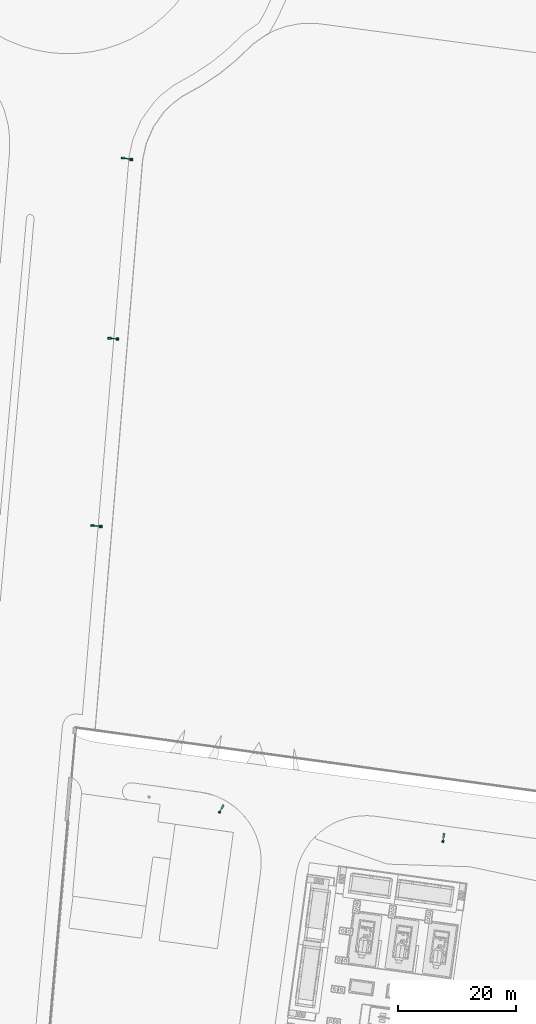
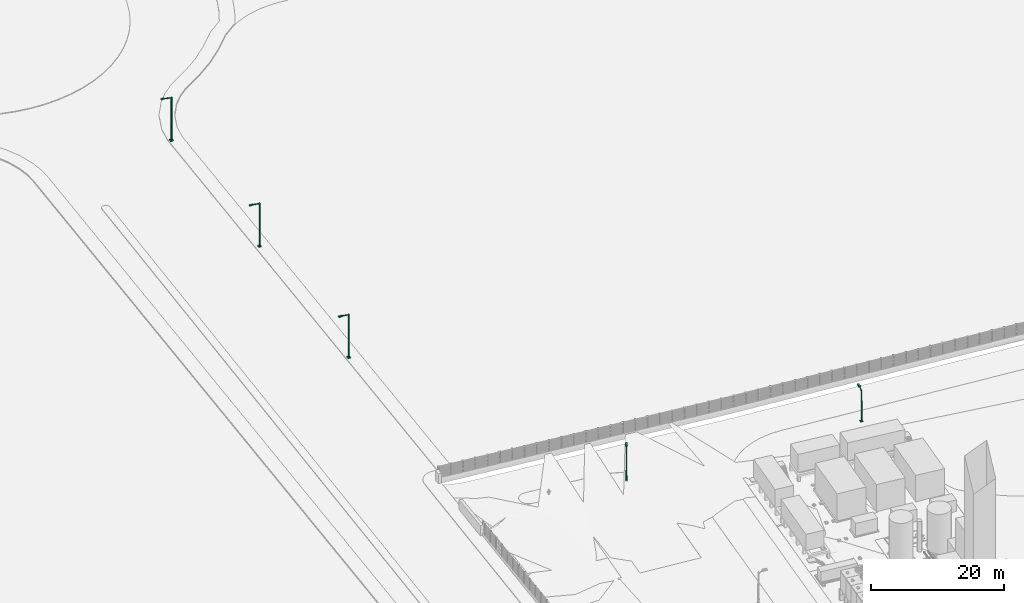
# Not in any storey, part 61 of 75: 5 light fixtures.
"""IFC4 model written with IfcOpenShell, lengths in metres."""

from ifc_helpers import new_model, si_unit, direction, origin, origin_with_axes, place, context, subcontext, project, spatial, triangles, element, save


model = new_model("IFC4")

# Units and contexts
model_context = context("Model", 3, precision=1e-05, world=origin_with_axes(), true_north=direction((0.0, 1.0)))
body_context = subcontext(model_context, "Body", "Model", "MODEL_VIEW")
ifc_project = project(units=[si_unit("AREAUNIT", "SQUARE_METRE"), si_unit("VOLUMEUNIT", "CUBIC_METRE"), si_unit("LENGTHUNIT", "METRE")], contexts=[model_context])

# Site
site_placement = place(None, origin_with_axes())
site = spatial("IfcSite", under=ifc_project, at=site_placement, Name="Parcela industrial Jinhong")

# Light fixtures
light_fixture_1_placement = place(None, origin())
element("IfcLightFixture", 1, at=light_fixture_1_placement, inside=site, Name="Luminaria LED L01 · provisional", ObjectType="Luminaria exterior provisional", PredefinedType="USERDEFINED", context=body_context, shape_type="Tessellation", body=[
    triangles([(25.080206, 94.714051, 0.783449), (25.080206, 94.714051, 0.843449), (24.714051, 94.919794, 0.783449), (24.714051, 94.919794, 0.843449), (25.285949, 95.080206, 0.783449), (25.285949, 95.080206, 0.843449), (24.919794, 95.285949, 0.783449), (24.919794, 95.285949, 0.843449)], [[2, 4, 1], [5, 2, 1], [1, 4, 3], [3, 5, 1], [2, 8, 4], [6, 2, 5], [6, 8, 2], [4, 8, 3], [7, 5, 3], [3, 8, 7], [7, 6, 5], [8, 6, 7]], closed=True),
    triangles([(25.0, 95.0, 0.843449), (25.068581, 95.122052, 0.843449), (25.068581, 95.122052, 0.903449), (25.0, 95.0, 0.903449), (25.016654, 95.139006, 0.843449), (25.016654, 95.139006, 0.903449), (24.962191, 95.134798, 0.843449), (24.962191, 95.134798, 0.903449), (24.913484, 95.110068, 0.843449), (24.913484, 95.110068, 0.903449), (24.877948, 95.068581, 0.843449), (24.877948, 95.068581, 0.903449), (24.860994, 95.016654, 0.843449), (24.860994, 95.016654, 0.903449), (24.865202, 94.962191, 0.843449), (24.865202, 94.962191, 0.903449), (24.889932, 94.913484, 0.843449), (24.889932, 94.913484, 0.903449), (24.931419, 94.877948, 0.843449), (24.931419, 94.877948, 0.903449), (24.983346, 94.860994, 0.843449), (24.983346, 94.860994, 0.903449), (25.037809, 94.865202, 0.843449), (25.037809, 94.865202, 0.903449), (25.086516, 94.889932, 0.843449), (25.086516, 94.889932, 0.903449), (25.122052, 94.931419, 0.843449), (25.122052, 94.931419, 0.903449), (25.139006, 94.983346, 0.843449), (25.139006, 94.983346, 0.903449), (25.134798, 95.037809, 0.843449), (25.134798, 95.037809, 0.903449), (25.110068, 95.086516, 0.843449), (25.110068, 95.086516, 0.903449)], [[2, 1, 5], [2, 5, 3], [3, 5, 6], [3, 6, 4], [5, 1, 7], [5, 7, 6], [6, 7, 8], [6, 8, 4], [7, 1, 9], [7, 9, 8], [8, 9, 10], [8, 10, 4], [9, 1, 11], [9, 11, 10], [10, 11, 12], [10, 12, 4], [11, 1, 13], [11, 13, 12], [12, 13, 14], [12, 14, 4], [13, 1, 15], [13, 15, 14], [14, 15, 16], [14, 16, 4], [15, 1, 17], [15, 17, 16], [16, 17, 18], [16, 18, 4], [17, 1, 19], [17, 19, 18], [18, 19, 20], [18, 20, 4], [19, 1, 21], [19, 21, 20], [20, 21, 22], [20, 22, 4], [21, 1, 23], [21, 23, 22], [22, 23, 24], [22, 24, 4], [23, 1, 25], [23, 25, 24], [24, 25, 26], [24, 26, 4], [25, 1, 27], [25, 27, 26], [26, 27, 28], [26, 28, 4], [27, 1, 29], [27, 29, 28], [28, 29, 30], [28, 30, 4], [29, 1, 31], [29, 31, 30], [30, 31, 32], [30, 32, 4], [31, 1, 33], [31, 33, 32], [32, 33, 34], [32, 34, 4], [33, 1, 2], [33, 2, 34], [34, 2, 3], [34, 3, 4]], closed=True),
    triangles([(25.041639, 95.074103, 0.903449), (25.010111, 95.084396, 0.903449), (24.977044, 95.081842, 0.903449), (24.947472, 95.066827, 0.903449), (24.925897, 95.041639, 0.903449), (24.915604, 95.010111, 0.903449), (24.918158, 94.977044, 0.903449), (24.933173, 94.947472, 0.903449), (24.958361, 94.925897, 0.903449), (24.989889, 94.915604, 0.903449), (25.022956, 94.918158, 0.903449), (25.052528, 94.933173, 0.903449), (25.074103, 94.958361, 0.903449), (25.084396, 94.989889, 0.903449), (25.081842, 95.022956, 0.903449), (25.066827, 95.052528, 0.903449), (25.022044, 95.039231, 6.483449), (25.005353, 95.04468, 6.483449), (24.987847, 95.043328, 6.483449), (24.972191, 95.035379, 6.483449), (24.960769, 95.022044, 6.483449), (24.95532, 95.005353, 6.483449), (24.956672, 94.987847, 6.483449), (24.964621, 94.972191, 6.483449), (24.977956, 94.960769, 6.483449), (24.994647, 94.95532, 6.483449), (25.012153, 94.956672, 6.483449), (25.027809, 94.964621, 6.483449), (25.039231, 94.977956, 6.483449), (25.04468, 94.994647, 6.483449), (25.043328, 95.012153, 6.483449), (25.035379, 95.027809, 6.483449)], [[31, 14, 15], [30, 14, 31], [29, 14, 30], [13, 14, 29], [26, 10, 11], [26, 11, 27], [9, 10, 26], [26, 25, 9], [4, 10, 9], [1, 16, 4], [13, 12, 4], [4, 6, 5], [9, 8, 4], [4, 2, 1], [4, 16, 15], [3, 2, 4], [4, 12, 11], [11, 10, 4], [4, 14, 13], [15, 14, 4], [7, 6, 4], [4, 8, 7], [1, 2, 18], [18, 17, 1], [32, 16, 1], [1, 17, 32], [15, 16, 32], [32, 31, 15], [11, 12, 28], [27, 11, 28], [28, 12, 13], [13, 29, 28], [21, 4, 5], [20, 4, 21], [7, 8, 24], [23, 7, 24], [9, 25, 24], [24, 8, 9], [3, 4, 19], [19, 4, 20], [19, 2, 3], [19, 18, 2], [22, 32, 17], [22, 26, 27], [17, 18, 22], [22, 19, 20], [27, 28, 22], [30, 31, 22], [22, 29, 30], [25, 26, 22], [23, 24, 22], [31, 32, 22], [22, 28, 29], [20, 21, 22], [22, 24, 25], [18, 19, 22], [22, 6, 7], [22, 7, 23], [5, 6, 22], [22, 21, 5]], closed=True),
    triangles([(25.0, 95.0, 6.483449), (25.023024, 95.040974, 6.483449), (25.023024, 95.040974, 6.503449), (25.0, 95.0, 6.503449), (25.005591, 95.046666, 6.483449), (25.005591, 95.046666, 6.503449), (24.987307, 95.045254, 6.483449), (24.987307, 95.045254, 6.503449), (24.970955, 95.036951, 6.483449), (24.970955, 95.036951, 6.503449), (24.959026, 95.023024, 6.483449), (24.959026, 95.023024, 6.503449), (24.953334, 95.005591, 6.483449), (24.953334, 95.005591, 6.503449), (24.954746, 94.987307, 6.483449), (24.954746, 94.987307, 6.503449), (24.963049, 94.970955, 6.483449), (24.963049, 94.970955, 6.503449), (24.976976, 94.959026, 6.483449), (24.976976, 94.959026, 6.503449), (24.994409, 94.953334, 6.483449), (24.994409, 94.953334, 6.503449), (25.012693, 94.954746, 6.483449), (25.012693, 94.954746, 6.503449), (25.029045, 94.963049, 6.483449), (25.029045, 94.963049, 6.503449), (25.040974, 94.976976, 6.483449), (25.040974, 94.976976, 6.503449), (25.046666, 94.994409, 6.483449), (25.046666, 94.994409, 6.503449), (25.045254, 95.012693, 6.483449), (25.045254, 95.012693, 6.503449), (25.036951, 95.029045, 6.483449), (25.036951, 95.029045, 6.503449)], [[2, 1, 5], [2, 5, 3], [3, 5, 6], [3, 6, 4], [5, 1, 7], [5, 7, 6], [6, 7, 8], [6, 8, 4], [7, 1, 9], [7, 9, 8], [8, 9, 10], [8, 10, 4], [9, 1, 11], [9, 11, 10], [10, 11, 12], [10, 12, 4], [11, 1, 13], [11, 13, 12], [12, 13, 14], [12, 14, 4], [13, 1, 15], [13, 15, 14], [14, 15, 16], [14, 16, 4], [15, 1, 17], [15, 17, 16], [16, 17, 18], [16, 18, 4], [17, 1, 19], [17, 19, 18], [18, 19, 20], [18, 20, 4], [19, 1, 21], [19, 21, 20], [20, 21, 22], [20, 22, 4], [21, 1, 23], [21, 23, 22], [22, 23, 24], [22, 24, 4], [23, 1, 25], [23, 25, 24], [24, 25, 26], [24, 26, 4], [25, 1, 27], [25, 27, 26], [26, 27, 28], [26, 28, 4], [27, 1, 29], [27, 29, 28], [28, 29, 30], [28, 30, 4], [29, 1, 31], [29, 31, 30], [30, 31, 32], [30, 32, 4], [31, 1, 33], [31, 33, 32], [32, 33, 34], [32, 34, 4], [33, 1, 2], [33, 2, 34], [34, 2, 3], [34, 3, 4]], closed=True),
    triangles([(25.049651, 94.822984, 0.843449), (25.058469, 94.838676, 0.843449), (25.058469, 94.838676, 0.868449), (25.049651, 94.822984, 0.868449), (25.04047, 94.838466, 0.843449), (25.04047, 94.838466, 0.868449), (25.031652, 94.822774, 0.843449), (25.031652, 94.822774, 0.868449), (25.040833, 94.807291, 0.843449), (25.040833, 94.807291, 0.868449), (25.058832, 94.807501, 0.843449), (25.058832, 94.807501, 0.868449), (25.06765, 94.823194, 0.843449), (25.06765, 94.823194, 0.868449)], [[2, 1, 5], [2, 5, 3], [3, 5, 6], [3, 6, 4], [5, 1, 7], [5, 7, 6], [6, 7, 8], [6, 8, 4], [7, 1, 9], [7, 9, 8], [8, 9, 10], [8, 10, 4], [9, 1, 11], [9, 11, 10], [10, 11, 12], [10, 12, 4], [11, 1, 13], [11, 13, 12], [12, 13, 14], [12, 14, 4], [13, 1, 2], [13, 2, 14], [14, 2, 3], [14, 3, 4]], closed=True),
    triangles([(24.822984, 94.950349, 0.843449), (24.831801, 94.966041, 0.843449), (24.831801, 94.966041, 0.868449), (24.822984, 94.950349, 0.868449), (24.813803, 94.965831, 0.843449), (24.813803, 94.965831, 0.868449), (24.804985, 94.950139, 0.843449), (24.804985, 94.950139, 0.868449), (24.814166, 94.934657, 0.843449), (24.814166, 94.934657, 0.868449), (24.832165, 94.934867, 0.843449), (24.832165, 94.934867, 0.868449), (24.840982, 94.950559, 0.843449), (24.840982, 94.950559, 0.868449)], [[2, 1, 5], [2, 5, 3], [3, 5, 6], [3, 6, 4], [5, 1, 7], [5, 7, 6], [6, 7, 8], [6, 8, 4], [7, 1, 9], [7, 9, 8], [8, 9, 10], [8, 10, 4], [9, 1, 11], [9, 11, 10], [10, 11, 12], [10, 12, 4], [11, 1, 13], [11, 13, 12], [12, 13, 14], [12, 14, 4], [13, 1, 2], [13, 2, 14], [14, 2, 3], [14, 3, 4]], closed=True),
    triangles([(25.177016, 95.049651, 0.843449), (25.185834, 95.065343, 0.843449), (25.185834, 95.065343, 0.868449), (25.177016, 95.049651, 0.868449), (25.167835, 95.065133, 0.843449), (25.167835, 95.065133, 0.868449), (25.159018, 95.049441, 0.843449), (25.159018, 95.049441, 0.868449), (25.168199, 95.033959, 0.843449), (25.168199, 95.033959, 0.868449), (25.186197, 95.034169, 0.843449), (25.186197, 95.034169, 0.868449), (25.195015, 95.049861, 0.843449), (25.195015, 95.049861, 0.868449)], [[2, 1, 5], [2, 5, 3], [3, 5, 6], [3, 6, 4], [5, 1, 7], [5, 7, 6], [6, 7, 8], [6, 8, 4], [7, 1, 9], [7, 9, 8], [8, 9, 10], [8, 10, 4], [9, 1, 11], [9, 11, 10], [10, 11, 12], [10, 12, 4], [11, 1, 13], [11, 13, 12], [12, 13, 14], [12, 14, 4], [13, 1, 2], [13, 2, 14], [14, 2, 3], [14, 3, 4]], closed=True),
    triangles([(24.950349, 95.177016, 0.843449), (24.959167, 95.192709, 0.843449), (24.959167, 95.192709, 0.868449), (24.950349, 95.177016, 0.868449), (24.941168, 95.192499, 0.843449), (24.941168, 95.192499, 0.868449), (24.93235, 95.176806, 0.843449), (24.93235, 95.176806, 0.868449), (24.941531, 95.161324, 0.843449), (24.941531, 95.161324, 0.868449), (24.95953, 95.161534, 0.843449), (24.95953, 95.161534, 0.868449), (24.968348, 95.177226, 0.843449), (24.968348, 95.177226, 0.868449)], [[2, 1, 5], [2, 5, 3], [3, 5, 6], [3, 6, 4], [5, 1, 7], [5, 7, 6], [6, 7, 8], [6, 8, 4], [7, 1, 9], [7, 9, 8], [8, 9, 10], [8, 10, 4], [9, 1, 11], [9, 11, 10], [10, 11, 12], [10, 12, 4], [11, 1, 13], [11, 13, 12], [12, 13, 14], [12, 14, 4], [13, 1, 2], [13, 2, 14], [14, 2, 3], [14, 3, 4]], closed=True),
    triangles([(25.067253, 95.048239, 1.313449), (25.067253, 95.048239, 1.613449), (25.006227, 95.08253, 1.313449), (25.006227, 95.08253, 1.613449), (25.073131, 95.058701, 1.313449), (25.073131, 95.058701, 1.613449), (25.012105, 95.092992, 1.313449), (25.012105, 95.092992, 1.613449)], [[2, 4, 1], [5, 2, 1], [1, 4, 3], [3, 5, 1], [2, 8, 4], [6, 2, 5], [6, 8, 2], [4, 8, 3], [7, 5, 3], [3, 8, 7], [7, 6, 5], [8, 6, 7]], closed=True),
    triangles([(25.0, 95.0, 6.183449), (25.009467, 95.016849, 6.155476), (25.278894, 95.496338, 6.535476), (25.269427, 95.479489, 6.563449), (24.993379, 95.022919, 6.159224), (25.262805, 95.502408, 6.539224), (24.979064, 95.022849, 6.169462), (25.24849, 95.502337, 6.549462), (24.970359, 95.016655, 6.183449), (25.239785, 95.496144, 6.563449), (24.969596, 95.006, 6.197435), (25.239023, 95.485488, 6.577435), (24.97698, 94.993736, 6.207674), (25.246407, 95.473225, 6.587674), (24.990533, 94.983151, 6.211422), (25.259959, 95.46264, 6.591422), (25.006621, 94.977081, 6.207674), (25.276048, 95.456569, 6.587674), (25.020936, 94.977151, 6.197435), (25.290363, 95.45664, 6.577435), (25.029641, 94.983345, 6.183449), (25.299068, 95.462833, 6.563449), (25.030404, 94.994, 6.169462), (25.29983, 95.473489, 6.549462), (25.02302, 95.006264, 6.159224), (25.292446, 95.485753, 6.539224)], [[2, 1, 5], [2, 5, 3], [3, 5, 6], [3, 6, 4], [5, 1, 7], [5, 7, 6], [6, 7, 8], [6, 8, 4], [7, 1, 9], [7, 9, 8], [8, 9, 10], [8, 10, 4], [9, 1, 11], [9, 11, 10], [10, 11, 12], [10, 12, 4], [11, 1, 13], [11, 13, 12], [12, 13, 14], [12, 14, 4], [13, 1, 15], [13, 15, 14], [14, 15, 16], [14, 16, 4], [15, 1, 17], [15, 17, 16], [16, 17, 18], [16, 18, 4], [17, 1, 19], [17, 19, 18], [18, 19, 20], [18, 20, 4], [19, 1, 21], [19, 21, 20], [20, 21, 22], [20, 22, 4], [21, 1, 23], [21, 23, 22], [22, 23, 24], [22, 24, 4], [23, 1, 25], [23, 25, 24], [24, 25, 26], [24, 26, 4], [25, 1, 2], [25, 2, 26], [26, 2, 3], [26, 3, 4]], closed=True),
    triangles([(25.269427, 95.479489, 6.563449), (25.274828, 95.489102, 6.531287), (25.446282, 95.794231, 6.651287), (25.44088, 95.784618, 6.683449), (25.259284, 95.496142, 6.535596), (25.430737, 95.801271, 6.655596), (25.246457, 95.498719, 6.547368), (25.417911, 95.803848, 6.667368), (25.239785, 95.496144, 6.563449), (25.411239, 95.801273, 6.683449), (25.241056, 95.489106, 6.57953), (25.412509, 95.794235, 6.69953), (25.249928, 95.479491, 6.591302), (25.421381, 95.78462, 6.711302), (25.264025, 95.469875, 6.595611), (25.435478, 95.775004, 6.715611), (25.279569, 95.462836, 6.591302), (25.451022, 95.767965, 6.711302), (25.292396, 95.460258, 6.57953), (25.463849, 95.765387, 6.69953), (25.299068, 95.462833, 6.563449), (25.470521, 95.767962, 6.683449), (25.297797, 95.469871, 6.547368), (25.469251, 95.775, 6.667368), (25.288925, 95.479486, 6.535596), (25.460378, 95.784615, 6.655596)], [[2, 1, 5], [2, 5, 3], [3, 5, 6], [3, 6, 4], [5, 1, 7], [5, 7, 6], [6, 7, 8], [6, 8, 4], [7, 1, 9], [7, 9, 8], [8, 9, 10], [8, 10, 4], [9, 1, 11], [9, 11, 10], [10, 11, 12], [10, 12, 4], [11, 1, 13], [11, 13, 12], [12, 13, 14], [12, 14, 4], [13, 1, 15], [13, 15, 14], [14, 15, 16], [14, 16, 4], [15, 1, 17], [15, 17, 16], [16, 17, 18], [16, 18, 4], [17, 1, 19], [17, 19, 18], [18, 19, 20], [18, 20, 4], [19, 1, 21], [19, 21, 20], [20, 21, 22], [20, 22, 4], [21, 1, 23], [21, 23, 22], [22, 23, 24], [22, 24, 4], [23, 1, 25], [23, 25, 24], [24, 25, 26], [24, 26, 4], [25, 1, 2], [25, 2, 26], [26, 2, 3], [26, 3, 4]], closed=True),
    triangles([(25.463879, 95.519342, 6.603449), (25.463879, 95.519342, 6.783449), (25.20234, 95.666302, 6.603449), (25.20234, 95.666302, 6.783449), (25.816583, 96.147037, 6.603449), (25.816583, 96.147037, 6.783449), (25.555043, 96.293996, 6.603449), (25.555043, 96.293996, 6.783449)], [[2, 4, 1], [5, 2, 1], [1, 4, 3], [3, 5, 1], [2, 8, 4], [6, 2, 5], [6, 8, 2], [4, 8, 3], [7, 5, 3], [3, 8, 7], [7, 6, 5], [8, 6, 7]], closed=True),
    triangles([(25.458399, 95.591245, 6.578449), (25.458399, 95.591245, 6.603449), (25.266603, 95.699015, 6.578449), (25.266603, 95.699015, 6.603449), (25.752319, 96.114323, 6.578449), (25.752319, 96.114323, 6.603449), (25.560523, 96.222094, 6.578449), (25.560523, 96.222094, 6.603449)], [[2, 4, 1], [5, 2, 1], [1, 4, 3], [3, 5, 1], [2, 8, 4], [6, 2, 5], [6, 8, 2], [4, 8, 3], [7, 5, 3], [3, 8, 7], [7, 6, 5], [8, 6, 7]], closed=True),
])
light_fixture_2_placement = place(None, origin())
element("IfcLightFixture", 2, at=light_fixture_2_placement, inside=site, Name="Luminaria LED L02 · provisional", ObjectType="Luminaria exterior provisional", PredefinedType="USERDEFINED", context=body_context, shape_type="Tessellation", body=[
    triangles([(63.179174, 89.763152, 1.441939), (63.179174, 89.763152, 1.501939), (62.763152, 89.820826, 1.441939), (62.763152, 89.820826, 1.501939), (63.236848, 90.179174, 1.441939), (63.236848, 90.179174, 1.501939), (62.820826, 90.236848, 1.441939), (62.820826, 90.236848, 1.501939)], [[2, 4, 1], [5, 2, 1], [1, 4, 3], [3, 5, 1], [2, 8, 4], [6, 2, 5], [6, 8, 2], [4, 8, 3], [7, 5, 3], [3, 8, 7], [7, 6, 5], [8, 6, 7]], closed=True),
    triangles([(63.0, 90.0, 1.501939), (63.019225, 90.138674, 1.501939), (63.019225, 90.138674, 1.561939), (63.0, 90.0, 1.561939), (62.964693, 90.135475, 1.501939), (62.964693, 90.135475, 1.561939), (62.915537, 90.111651, 1.501939), (62.915537, 90.111651, 1.561939), (62.879239, 90.070829, 1.501939), (62.879239, 90.070829, 1.561939), (62.861326, 90.019225, 1.501939), (62.861326, 90.019225, 1.561939), (62.864525, 89.964693, 1.501939), (62.864525, 89.964693, 1.561939), (62.888349, 89.915537, 1.501939), (62.888349, 89.915537, 1.561939), (62.929171, 89.879239, 1.501939), (62.929171, 89.879239, 1.561939), (62.980775, 89.861326, 1.501939), (62.980775, 89.861326, 1.561939), (63.035307, 89.864525, 1.501939), (63.035307, 89.864525, 1.561939), (63.084463, 89.888349, 1.501939), (63.084463, 89.888349, 1.561939), (63.120761, 89.929171, 1.501939), (63.120761, 89.929171, 1.561939), (63.138674, 89.980775, 1.501939), (63.138674, 89.980775, 1.561939), (63.135475, 90.035307, 1.501939), (63.135475, 90.035307, 1.561939), (63.111651, 90.084463, 1.501939), (63.111651, 90.084463, 1.561939), (63.070829, 90.120761, 1.501939), (63.070829, 90.120761, 1.561939)], [[2, 1, 5], [2, 5, 3], [3, 5, 6], [3, 6, 4], [5, 1, 7], [5, 7, 6], [6, 7, 8], [6, 8, 4], [7, 1, 9], [7, 9, 8], [8, 9, 10], [8, 10, 4], [9, 1, 11], [9, 11, 10], [10, 11, 12], [10, 12, 4], [11, 1, 13], [11, 13, 12], [12, 13, 14], [12, 14, 4], [13, 1, 15], [13, 15, 14], [14, 15, 16], [14, 16, 4], [15, 1, 17], [15, 17, 16], [16, 17, 18], [16, 18, 4], [17, 1, 19], [17, 19, 18], [18, 19, 20], [18, 20, 4], [19, 1, 21], [19, 21, 20], [20, 21, 22], [20, 22, 4], [21, 1, 23], [21, 23, 22], [22, 23, 24], [22, 24, 4], [23, 1, 25], [23, 25, 24], [24, 25, 26], [24, 26, 4], [25, 1, 27], [25, 27, 26], [26, 27, 28], [26, 28, 4], [27, 1, 29], [27, 29, 28], [28, 29, 30], [28, 30, 4], [29, 1, 31], [29, 31, 30], [30, 31, 32], [30, 32, 4], [31, 1, 33], [31, 33, 32], [32, 33, 34], [32, 34, 4], [33, 1, 2], [33, 2, 34], [34, 2, 3], [34, 3, 4]], closed=True),
    triangles([(63.011672, 90.084195, 1.561939), (62.978564, 90.082253, 1.561939), (62.948719, 90.067788, 1.561939), (62.926681, 90.043004, 1.561939), (62.915805, 90.011672, 1.561939), (62.917747, 89.978564, 1.561939), (62.932212, 89.948719, 1.561939), (62.956996, 89.926681, 1.561939), (62.988328, 89.915805, 1.561939), (63.021436, 89.917747, 1.561939), (63.051281, 89.932212, 1.561939), (63.073319, 89.956996, 1.561939), (63.084195, 89.988328, 1.561939), (63.082253, 90.021436, 1.561939), (63.067788, 90.051281, 1.561939), (63.043004, 90.073319, 1.561939), (63.006179, 90.044574, 7.141939), (62.988651, 90.043545, 7.141939), (62.972851, 90.035888, 7.141939), (62.961184, 90.022767, 7.141939), (62.955426, 90.006179, 7.141939), (62.956455, 89.988651, 7.141939), (62.964112, 89.972851, 7.141939), (62.977233, 89.961184, 7.141939), (62.993821, 89.955426, 7.141939), (63.011349, 89.956455, 7.141939), (63.027149, 89.964112, 7.141939), (63.038816, 89.977233, 7.141939), (63.044574, 89.993821, 7.141939), (63.043545, 90.011349, 7.141939), (63.035888, 90.027149, 7.141939), (63.022767, 90.038816, 7.141939)], [[31, 14, 15], [30, 14, 31], [29, 14, 30], [13, 14, 29], [26, 10, 11], [26, 11, 27], [9, 10, 26], [26, 25, 9], [4, 10, 9], [1, 16, 4], [13, 12, 4], [4, 6, 5], [9, 8, 4], [4, 2, 1], [4, 16, 15], [3, 2, 4], [4, 12, 11], [11, 10, 4], [4, 14, 13], [15, 14, 4], [7, 6, 4], [4, 8, 7], [1, 2, 18], [18, 17, 1], [32, 16, 1], [1, 17, 32], [15, 16, 32], [32, 31, 15], [11, 12, 28], [27, 11, 28], [28, 12, 13], [13, 29, 28], [21, 4, 5], [20, 4, 21], [7, 8, 24], [23, 7, 24], [9, 25, 24], [24, 8, 9], [3, 4, 19], [19, 4, 20], [19, 2, 3], [19, 18, 2], [22, 32, 17], [22, 26, 27], [17, 18, 22], [22, 19, 20], [27, 28, 22], [30, 31, 22], [22, 29, 30], [25, 26, 22], [23, 24, 22], [31, 32, 22], [22, 28, 29], [20, 21, 22], [22, 24, 25], [18, 19, 22], [22, 6, 7], [22, 7, 23], [5, 6, 22], [22, 21, 5]], closed=True),
    triangles([(63.0, 90.0, 7.141939), (63.006454, 90.046555, 7.141939), (63.006454, 90.046555, 7.161939), (63.0, 90.0, 7.161939), (62.988147, 90.045481, 7.141939), (62.988147, 90.045481, 7.161939), (62.971644, 90.037483, 7.141939), (62.971644, 90.037483, 7.161939), (62.959459, 90.023778, 7.141939), (62.959459, 90.023778, 7.161939), (62.953445, 90.006454, 7.141939), (62.953445, 90.006454, 7.161939), (62.954519, 89.988147, 7.141939), (62.954519, 89.988147, 7.161939), (62.962517, 89.971644, 7.141939), (62.962517, 89.971644, 7.161939), (62.976222, 89.959459, 7.141939), (62.976222, 89.959459, 7.161939), (62.993546, 89.953445, 7.141939), (62.993546, 89.953445, 7.161939), (63.011853, 89.954519, 7.141939), (63.011853, 89.954519, 7.161939), (63.028356, 89.962517, 7.141939), (63.028356, 89.962517, 7.161939), (63.040541, 89.976222, 7.141939), (63.040541, 89.976222, 7.161939), (63.046555, 89.993546, 7.141939), (63.046555, 89.993546, 7.161939), (63.045481, 90.011853, 7.141939), (63.045481, 90.011853, 7.161939), (63.037483, 90.028356, 7.141939), (63.037483, 90.028356, 7.161939), (63.023778, 90.040541, 7.141939), (63.023778, 90.040541, 7.161939)], [[2, 1, 5], [2, 5, 3], [3, 5, 6], [3, 6, 4], [5, 1, 7], [5, 7, 6], [6, 7, 8], [6, 8, 4], [7, 1, 9], [7, 9, 8], [8, 9, 10], [8, 10, 4], [9, 1, 11], [9, 11, 10], [10, 11, 12], [10, 12, 4], [11, 1, 13], [11, 13, 12], [12, 13, 14], [12, 14, 4], [13, 1, 15], [13, 15, 14], [14, 15, 16], [14, 16, 4], [15, 1, 17], [15, 17, 16], [16, 17, 18], [16, 18, 4], [17, 1, 19], [17, 19, 18], [18, 19, 20], [18, 20, 4], [19, 1, 21], [19, 21, 20], [20, 21, 22], [20, 22, 4], [21, 1, 23], [21, 23, 22], [22, 23, 24], [22, 24, 4], [23, 1, 25], [23, 25, 24], [24, 25, 26], [24, 26, 4], [25, 1, 27], [25, 27, 26], [26, 27, 28], [26, 28, 4], [27, 1, 29], [27, 29, 28], [28, 29, 30], [28, 30, 4], [29, 1, 31], [29, 31, 30], [30, 31, 32], [30, 32, 4], [31, 1, 33], [31, 33, 32], [32, 33, 34], [32, 34, 4], [33, 1, 2], [33, 2, 34], [34, 2, 3], [34, 3, 4]], closed=True),
    triangles([(63.110917, 89.85338, 1.501939), (63.113389, 89.871209, 1.501939), (63.113389, 89.871209, 1.526939), (63.110917, 89.85338, 1.526939), (63.096712, 89.864435, 1.501939), (63.096712, 89.864435, 1.526939), (63.09424, 89.846606, 1.501939), (63.09424, 89.846606, 1.526939), (63.108445, 89.835551, 1.501939), (63.108445, 89.835551, 1.526939), (63.125122, 89.842325, 1.501939), (63.125122, 89.842325, 1.526939), (63.127594, 89.860154, 1.501939), (63.127594, 89.860154, 1.526939)], [[2, 1, 5], [2, 5, 3], [3, 5, 6], [3, 6, 4], [5, 1, 7], [5, 7, 6], [6, 7, 8], [6, 8, 4], [7, 1, 9], [7, 9, 8], [8, 9, 10], [8, 10, 4], [9, 1, 11], [9, 11, 10], [10, 11, 12], [10, 12, 4], [11, 1, 13], [11, 13, 12], [12, 13, 14], [12, 14, 4], [13, 1, 2], [13, 2, 14], [14, 2, 3], [14, 3, 4]], closed=True),
    triangles([(62.85338, 89.889083, 1.501939), (62.855852, 89.906913, 1.501939), (62.855852, 89.906913, 1.526939), (62.85338, 89.889083, 1.526939), (62.839175, 89.900138, 1.501939), (62.839175, 89.900138, 1.526939), (62.836703, 89.882309, 1.501939), (62.836703, 89.882309, 1.526939), (62.850908, 89.871254, 1.501939), (62.850908, 89.871254, 1.526939), (62.867585, 89.878028, 1.501939), (62.867585, 89.878028, 1.526939), (62.870057, 89.895857, 1.501939), (62.870057, 89.895857, 1.526939)], [[2, 1, 5], [2, 5, 3], [3, 5, 6], [3, 6, 4], [5, 1, 7], [5, 7, 6], [6, 7, 8], [6, 8, 4], [7, 1, 9], [7, 9, 8], [8, 9, 10], [8, 10, 4], [9, 1, 11], [9, 11, 10], [10, 11, 12], [10, 12, 4], [11, 1, 13], [11, 13, 12], [12, 13, 14], [12, 14, 4], [13, 1, 2], [13, 2, 14], [14, 2, 3], [14, 3, 4]], closed=True),
    triangles([(63.14662, 90.110917, 1.501939), (63.149092, 90.128746, 1.501939), (63.149092, 90.128746, 1.526939), (63.14662, 90.110917, 1.526939), (63.132415, 90.121972, 1.501939), (63.132415, 90.121972, 1.526939), (63.129943, 90.104143, 1.501939), (63.129943, 90.104143, 1.526939), (63.144148, 90.093087, 1.501939), (63.144148, 90.093087, 1.526939), (63.160825, 90.099862, 1.501939), (63.160825, 90.099862, 1.526939), (63.163297, 90.117691, 1.501939), (63.163297, 90.117691, 1.526939)], [[2, 1, 5], [2, 5, 3], [3, 5, 6], [3, 6, 4], [5, 1, 7], [5, 7, 6], [6, 7, 8], [6, 8, 4], [7, 1, 9], [7, 9, 8], [8, 9, 10], [8, 10, 4], [9, 1, 11], [9, 11, 10], [10, 11, 12], [10, 12, 4], [11, 1, 13], [11, 13, 12], [12, 13, 14], [12, 14, 4], [13, 1, 2], [13, 2, 14], [14, 2, 3], [14, 3, 4]], closed=True),
    triangles([(62.889083, 90.14662, 1.501939), (62.891555, 90.164449, 1.501939), (62.891555, 90.164449, 1.526939), (62.889083, 90.14662, 1.526939), (62.874878, 90.157675, 1.501939), (62.874878, 90.157675, 1.526939), (62.872406, 90.139846, 1.501939), (62.872406, 90.139846, 1.526939), (62.886611, 90.128791, 1.501939), (62.886611, 90.128791, 1.526939), (62.903288, 90.135565, 1.501939), (62.903288, 90.135565, 1.526939), (62.90576, 90.153394, 1.501939), (62.90576, 90.153394, 1.526939)], [[2, 1, 5], [2, 5, 3], [3, 5, 6], [3, 6, 4], [5, 1, 7], [5, 7, 6], [6, 7, 8], [6, 8, 4], [7, 1, 9], [7, 9, 8], [8, 9, 10], [8, 10, 4], [9, 1, 11], [9, 11, 10], [10, 11, 12], [10, 12, 4], [11, 1, 13], [11, 13, 12], [12, 13, 14], [12, 14, 4], [13, 1, 2], [13, 2, 14], [14, 2, 3], [14, 3, 4]], closed=True),
    triangles([(63.044967, 90.069483, 1.971939), (63.044967, 90.069483, 2.271939), (62.975631, 90.079096, 1.971939), (62.975631, 90.079096, 2.271939), (63.046615, 90.08137, 1.971939), (63.046615, 90.08137, 2.271939), (62.977278, 90.090982, 1.971939), (62.977278, 90.090982, 2.271939)], [[2, 4, 1], [5, 2, 1], [1, 4, 3], [3, 5, 1], [2, 8, 4], [6, 2, 5], [6, 8, 2], [4, 8, 3], [7, 5, 3], [3, 8, 7], [7, 6, 5], [8, 6, 7]], closed=True),
    triangles([(63.0, 90.0, 6.841939), (63.002654, 90.019144, 6.813966), (63.07818, 90.563933, 7.193966), (63.075526, 90.54479, 7.221939), (62.985459, 90.018913, 6.817714), (63.060985, 90.563703, 7.197714), (62.972161, 90.013615, 6.827952), (63.047687, 90.558405, 7.207952), (62.966322, 90.004669, 6.841939), (63.041848, 90.549459, 7.221939), (62.969507, 89.994472, 6.855925), (63.045033, 90.539261, 7.235925), (62.980863, 89.985756, 6.866164), (63.056388, 90.530545, 7.246164), (62.997346, 89.980856, 6.869912), (63.072872, 90.525646, 7.249912), (63.014541, 89.981087, 6.866164), (63.090066, 90.525876, 7.246164), (63.027839, 89.986385, 6.855925), (63.103365, 90.531175, 7.235925), (63.033678, 89.995331, 6.841939), (63.109204, 90.540121, 7.221939), (63.030493, 90.005528, 6.827952), (63.106019, 90.550318, 7.207952), (63.019137, 90.014244, 6.817714), (63.094663, 90.559034, 7.197714)], [[2, 1, 5], [2, 5, 3], [3, 5, 6], [3, 6, 4], [5, 1, 7], [5, 7, 6], [6, 7, 8], [6, 8, 4], [7, 1, 9], [7, 9, 8], [8, 9, 10], [8, 10, 4], [9, 1, 11], [9, 11, 10], [10, 11, 12], [10, 12, 4], [11, 1, 13], [11, 13, 12], [12, 13, 14], [12, 14, 4], [13, 1, 15], [13, 15, 14], [14, 15, 16], [14, 16, 4], [15, 1, 17], [15, 17, 16], [16, 17, 18], [16, 18, 4], [17, 1, 19], [17, 19, 18], [18, 19, 20], [18, 20, 4], [19, 1, 21], [19, 21, 20], [20, 21, 22], [20, 22, 4], [21, 1, 23], [21, 23, 22], [22, 23, 24], [22, 24, 4], [23, 1, 25], [23, 25, 24], [24, 25, 26], [24, 26, 4], [25, 1, 2], [25, 2, 26], [26, 2, 3], [26, 3, 4]], closed=True),
    triangles([(63.075526, 90.54479, 7.221939), (63.07704, 90.555712, 7.189777), (63.125102, 90.902397, 7.309777), (63.123587, 90.891474, 7.341939), (63.059998, 90.556583, 7.194086), (63.10806, 90.903268, 7.314086), (63.047117, 90.554294, 7.205858), (63.095179, 90.900979, 7.325858), (63.041848, 90.549459, 7.221939), (63.08991, 90.896143, 7.341939), (63.045603, 90.543372, 7.23802), (63.093664, 90.890056, 7.35802), (63.057375, 90.537665, 7.249792), (63.105437, 90.884349, 7.369792), (63.074011, 90.533867, 7.254101), (63.122073, 90.880552, 7.374101), (63.091053, 90.532996, 7.249792), (63.139115, 90.87968, 7.369792), (63.103934, 90.535285, 7.23802), (63.151996, 90.88197, 7.35802), (63.109204, 90.540121, 7.221939), (63.157265, 90.886805, 7.341939), (63.105449, 90.546208, 7.205858), (63.153511, 90.892892, 7.325858), (63.093676, 90.551915, 7.194086), (63.141738, 90.898599, 7.314086)], [[2, 1, 5], [2, 5, 3], [3, 5, 6], [3, 6, 4], [5, 1, 7], [5, 7, 6], [6, 7, 8], [6, 8, 4], [7, 1, 9], [7, 9, 8], [8, 9, 10], [8, 10, 4], [9, 1, 11], [9, 11, 10], [10, 11, 12], [10, 12, 4], [11, 1, 13], [11, 13, 12], [12, 13, 14], [12, 14, 4], [13, 1, 15], [13, 15, 14], [14, 15, 16], [14, 16, 4], [15, 1, 17], [15, 17, 16], [16, 17, 18], [16, 18, 4], [17, 1, 19], [17, 19, 18], [18, 19, 20], [18, 20, 4], [19, 1, 21], [19, 21, 20], [20, 21, 22], [20, 22, 4], [21, 1, 23], [21, 23, 22], [22, 23, 24], [22, 24, 4], [23, 1, 25], [23, 25, 24], [24, 25, 26], [24, 26, 4], [25, 1, 2], [25, 2, 26], [26, 2, 3], [26, 3, 4]], closed=True),
    triangles([(63.241956, 90.65296, 7.261939), (63.241956, 90.65296, 7.441939), (62.944798, 90.694156, 7.261939), (62.944798, 90.694156, 7.441939), (63.340826, 91.36614, 7.261939), (63.340826, 91.36614, 7.441939), (63.043668, 91.407335, 7.261939), (63.043668, 91.407335, 7.441939)], [[2, 4, 1], [5, 2, 1], [1, 4, 3], [3, 5, 1], [2, 8, 4], [6, 2, 5], [6, 8, 2], [4, 8, 3], [7, 5, 3], [3, 8, 7], [7, 6, 5], [8, 6, 7]], closed=True),
    triangles([(63.210574, 90.717885, 7.236939), (63.210574, 90.717885, 7.261939), (62.992658, 90.748095, 7.236939), (62.992658, 90.748095, 7.261939), (63.292966, 91.312201, 7.236939), (63.292966, 91.312201, 7.261939), (63.07505, 91.342411, 7.236939), (63.07505, 91.342411, 7.261939)], [[2, 4, 1], [5, 2, 1], [1, 4, 3], [3, 5, 1], [2, 8, 4], [6, 2, 5], [6, 8, 2], [4, 8, 3], [7, 5, 3], [3, 8, 7], [7, 6, 5], [8, 6, 7]], closed=True),
])
light_fixture_3_placement = place(None, origin())
element("IfcLightFixture", 3, at=light_fixture_3_placement, inside=site, Name="Luminaria del entorno · ilustrativa 7", ObjectType="Luminaria del entorno · ilustrativa 7", PredefinedType="USERDEFINED", context=body_context, shape_type="Tessellation", body=[
    triangles([(4.559879, 143.379966, 0.986211), (4.559879, 143.379966, 1.186211), (4.559879, 143.829966, 0.986211), (4.559879, 143.829966, 1.186211), (5.009879, 143.379966, 0.986211), (5.009879, 143.379966, 1.186211), (5.009879, 143.829966, 0.986211), (5.009879, 143.829966, 1.186211)], [[2, 4, 1], [5, 2, 1], [1, 4, 3], [3, 5, 1], [2, 8, 4], [6, 2, 5], [6, 8, 2], [4, 8, 3], [7, 5, 3], [3, 8, 7], [7, 6, 5], [8, 6, 7]], closed=True),
    triangles([(4.724879, 143.544966, 1.186211), (4.724879, 143.544966, 8.986211), (4.724879, 143.664966, 1.186211), (4.724879, 143.664966, 8.986211), (4.844879, 143.544966, 1.186211), (4.844879, 143.544966, 8.986211), (4.844879, 143.664966, 1.186211), (4.844879, 143.664966, 8.986211)], [[2, 4, 1], [5, 2, 1], [1, 4, 3], [3, 5, 1], [2, 8, 4], [6, 2, 5], [6, 8, 2], [4, 8, 3], [7, 5, 3], [3, 8, 7], [7, 6, 5], [8, 6, 7]], closed=True),
    triangles([(4.777036, 143.565319, 8.84663), (3.382725, 143.6914, 8.99663), (4.7842, 143.644996, 8.846247), (3.389888, 143.771078, 8.996247), (4.785559, 143.564935, 8.926174), (3.391247, 143.691017, 9.076174), (4.792722, 143.644613, 8.925791), (3.398411, 143.770694, 9.075791)], [[2, 4, 1], [5, 2, 1], [1, 4, 3], [3, 5, 1], [2, 8, 4], [6, 2, 5], [6, 8, 2], [4, 8, 3], [7, 5, 3], [3, 8, 7], [7, 6, 5], [8, 6, 7]], closed=True),
    triangles([(3.100568, 143.591047, 8.976211), (3.100568, 143.591047, 9.096211), (3.100568, 143.871047, 8.976211), (3.100568, 143.871047, 9.096211), (3.680568, 143.591047, 8.976211), (3.680568, 143.591047, 9.096211), (3.680568, 143.871047, 8.976211), (3.680568, 143.871047, 9.096211)], [[2, 4, 1], [5, 2, 1], [1, 4, 3], [3, 5, 1], [2, 8, 4], [6, 2, 5], [6, 8, 2], [4, 8, 3], [7, 5, 3], [3, 8, 7], [7, 6, 5], [8, 6, 7]], closed=True),
])
light_fixture_4_placement = place(None, origin())
element("IfcLightFixture", 4, at=light_fixture_4_placement, inside=site, Name="Luminaria del entorno · ilustrativa 8", ObjectType="Luminaria del entorno · ilustrativa 8", PredefinedType="USERDEFINED", context=body_context, shape_type="Tessellation", body=[
    triangles([(7.441738, 175.249934, 1.10402), (7.441738, 175.249934, 1.30402), (7.441738, 175.699934, 1.10402), (7.441738, 175.699934, 1.30402), (7.891738, 175.249934, 1.10402), (7.891738, 175.249934, 1.30402), (7.891738, 175.699934, 1.10402), (7.891738, 175.699934, 1.30402)], [[2, 4, 1], [5, 2, 1], [1, 4, 3], [3, 5, 1], [2, 8, 4], [6, 2, 5], [6, 8, 2], [4, 8, 3], [7, 5, 3], [3, 8, 7], [7, 6, 5], [8, 6, 7]], closed=True),
    triangles([(7.606738, 175.414934, 1.30402), (7.606738, 175.414934, 9.10402), (7.606738, 175.534934, 1.30402), (7.606738, 175.534934, 9.10402), (7.726738, 175.414934, 1.30402), (7.726738, 175.414934, 9.10402), (7.726738, 175.534934, 1.30402), (7.726738, 175.534934, 9.10402)], [[2, 4, 1], [5, 2, 1], [1, 4, 3], [3, 5, 1], [2, 8, 4], [6, 2, 5], [6, 8, 2], [4, 8, 3], [7, 5, 3], [3, 8, 7], [7, 6, 5], [8, 6, 7]], closed=True),
    triangles([(7.658895, 175.435287, 8.96444), (6.264584, 175.561369, 9.11444), (7.666058, 175.514965, 8.964056), (6.271747, 175.641046, 9.114056), (7.667417, 175.434904, 9.043984), (6.273106, 175.560985, 9.193984), (7.674581, 175.514581, 9.0436), (6.28027, 175.640663, 9.1936)], [[2, 4, 1], [5, 2, 1], [1, 4, 3], [3, 5, 1], [2, 8, 4], [6, 2, 5], [6, 8, 2], [4, 8, 3], [7, 5, 3], [3, 8, 7], [7, 6, 5], [8, 6, 7]], closed=True),
    triangles([(5.982427, 175.461016, 9.09402), (5.982427, 175.461016, 9.21402), (5.982427, 175.741016, 9.09402), (5.982427, 175.741016, 9.21402), (6.562427, 175.461016, 9.09402), (6.562427, 175.461016, 9.21402), (6.562427, 175.741016, 9.09402), (6.562427, 175.741016, 9.21402)], [[2, 4, 1], [5, 2, 1], [1, 4, 3], [3, 5, 1], [2, 8, 4], [6, 2, 5], [6, 8, 2], [4, 8, 3], [7, 5, 3], [3, 8, 7], [7, 6, 5], [8, 6, 7]], closed=True),
])
light_fixture_5_placement = place(None, origin())
element("IfcLightFixture", 5, at=light_fixture_5_placement, inside=site, Name="Luminaria del entorno · ilustrativa 9", ObjectType="Luminaria del entorno · ilustrativa 9", PredefinedType="USERDEFINED", context=body_context, shape_type="Tessellation", body=[
    triangles([(9.751888, 205.795335, 1.211794), (9.751888, 205.795335, 1.411794), (9.751888, 206.245335, 1.211794), (9.751888, 206.245335, 1.411794), (10.201888, 205.795335, 1.211794), (10.201888, 205.795335, 1.411794), (10.201888, 206.245335, 1.211794), (10.201888, 206.245335, 1.411794)], [[2, 4, 1], [5, 2, 1], [1, 4, 3], [3, 5, 1], [2, 8, 4], [6, 2, 5], [6, 8, 2], [4, 8, 3], [7, 5, 3], [3, 8, 7], [7, 6, 5], [8, 6, 7]], closed=True),
    triangles([(9.916888, 205.960335, 1.411794), (9.916888, 205.960335, 9.211794), (9.916888, 206.080335, 1.411794), (9.916888, 206.080335, 9.211794), (10.036888, 205.960335, 1.411794), (10.036888, 205.960335, 9.211794), (10.036888, 206.080335, 1.411794), (10.036888, 206.080335, 9.211794)], [[2, 4, 1], [5, 2, 1], [1, 4, 3], [3, 5, 1], [2, 8, 4], [6, 2, 5], [6, 8, 2], [4, 8, 3], [7, 5, 3], [3, 8, 7], [7, 6, 5], [8, 6, 7]], closed=True),
    triangles([(9.965512, 205.981357, 9.072407), (8.588094, 206.231797, 9.222407), (9.979741, 206.060078, 9.07164), (8.602323, 206.310518, 9.22164), (9.974035, 205.980591, 9.151948), (8.596617, 206.231031, 9.301948), (9.988264, 206.059312, 9.151181), (8.610846, 206.309751, 9.301181)], [[2, 4, 1], [5, 2, 1], [1, 4, 3], [3, 5, 1], [2, 8, 4], [6, 2, 5], [6, 8, 2], [4, 8, 3], [7, 5, 3], [3, 8, 7], [7, 6, 5], [8, 6, 7]], closed=True),
    triangles([(8.30947, 206.130774, 9.201794), (8.30947, 206.130774, 9.321794), (8.30947, 206.410774, 9.201794), (8.30947, 206.410774, 9.321794), (8.88947, 206.130774, 9.201794), (8.88947, 206.130774, 9.321794), (8.88947, 206.410774, 9.201794), (8.88947, 206.410774, 9.321794)], [[2, 4, 1], [5, 2, 1], [1, 4, 3], [3, 5, 1], [2, 8, 4], [6, 2, 5], [6, 8, 2], [4, 8, 3], [7, 5, 3], [3, 8, 7], [7, 6, 5], [8, 6, 7]], closed=True),
])

save(model, "model.ifc")
